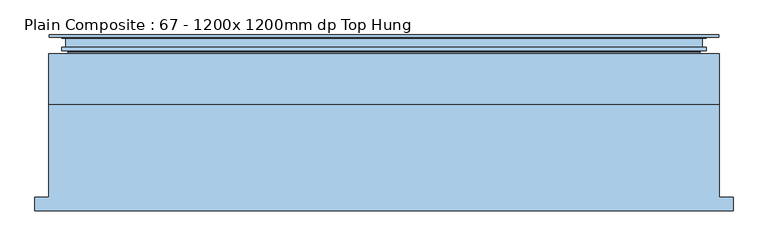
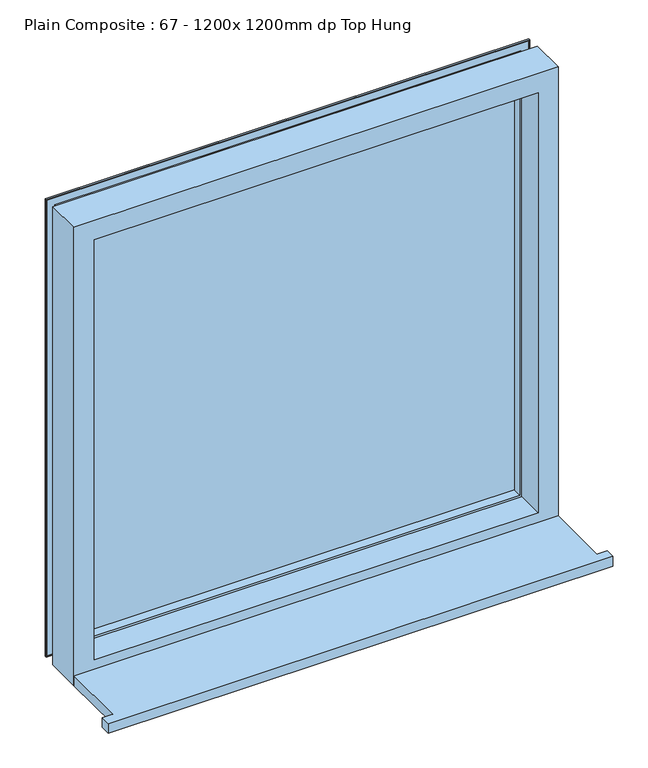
"""IFC4 building model written with IfcOpenShell, lengths in millimetres: window geometry, Plain Composite : 67 - 1200x 1200mm dp Top Hung."""

from ifc_helpers import new_model, si_unit, frame, origin, place, context, project, spatial, polyline, outline, extrude, faceted_brep, source, transform, mapped, element, save


def plain_composite_67_1200x_1200mm_dp_top_hung_3191f899(model_context):
    return source(origin(), model_context, "Body", "SolidModel", [
        extrude(outline(polyline([(-915.0, -161.5434322), (-915.0, -136.5434322), (-890.0, -136.5434322), (-890.0, 29.4565678), (310.0, 29.4565678), (310.0, -136.5434322), (335.0, -136.5434322), (335.0, -161.5434322), (-915.0, -161.5434322)])), frame((0.0, 0.0, 910.0), z_axis=(0.0, 0.0, 1.0), x_axis=(1.0, 0.0, 0.0)), (0.0, 0.0, 1.0), 25.0),
        extrude(outline(polyline([(267.0, 123.4565678), (-847.0, 123.4565678), (-847.0, 147.4565678), (267.0, 147.4565678), (267.0, 123.4565678)])), frame((0.0, 0.0, 953.0), z_axis=(0.0, 0.0, 1.0), x_axis=(1.0, 0.0, 0.0)), (0.0, 0.0, 1.0), 1114.0),
        faceted_brep([(-835.0, 147.4565678, 965.0), (-835.0, 153.4565678, 965.0), (-835.0, 153.4565678, 2055.0), (-835.0, 147.4565678, 2055.0), (-847.0, 123.4565678, 953.0), (-847.0, 147.4565678, 953.0), (-847.0, 147.4565678, 2067.0), (-847.0, 123.4565678, 2067.0), (-835.0, 100.4565678, 965.0), (-835.0, 123.4565678, 965.0), (-835.0, 123.4565678, 2055.0), (-835.0, 100.4565678, 2055.0), (-857.3761005, 103.766907, 942.6238995), (-857.3761005, 100.4565678, 942.6238995), (-857.3761005, 100.4565678, 2077.3761005), (-857.3761005, 103.766907, 2077.3761005), (-855.3055676, 104.9623297, 944.6944324), (-855.3055676, 104.9623297, 2075.3055676), (-855.3055676, 122.3525929, 944.6944324), (-855.3055676, 122.3525929, 2075.3055676), (-860.0, 127.0470253, 940.0), (-860.0, 127.0470253, 2080.0), (-865.0, 125.0470253, 935.0), (-865.0, 127.0470253, 935.0), (-865.0, 127.0470253, 2085.0), (-865.0, 125.0470253, 2085.0), (-867.0, 131.0470253, 933.0), (-867.0, 125.0470253, 933.0), (-867.0, 125.0470253, 2087.0), (-867.0, 131.0470253, 2087.0), (-865.0, 129.0470253, 935.0), (-865.0, 131.0470253, 935.0), (-865.0, 131.0470253, 2085.0), (-865.0, 129.0470253, 2085.0), (-860.0, 149.4565678, 940.0), (-860.0, 129.0470253, 940.0), (-860.0, 129.0470253, 2080.0), (-860.0, 149.4565678, 2080.0), (-865.0, 147.4565678, 935.0), (-865.0, 149.4565678, 935.0), (-865.0, 149.4565678, 2085.0), (-865.0, 147.4565678, 2085.0), (-867.0, 151.4565678, 933.0), (-867.0, 147.4565678, 933.0), (-867.0, 147.4565678, 2087.0), (-867.0, 151.4565678, 2087.0), (-887.0, 149.4565678, 913.0), (-887.0, 151.4565678, 913.0), (-887.0, 151.4565678, 2107.0), (-887.0, 149.4565678, 2107.0), (-889.0, 153.4565678, 911.0), (-889.0, 149.4565678, 911.0), (-889.0, 149.4565678, 2109.0), (-889.0, 153.4565678, 2109.0), (255.0, 153.4565678, 2055.0), (255.0, 147.4565678, 2055.0), (267.0, 147.4565678, 2067.0), (267.0, 123.4565678, 2067.0), (255.0, 123.4565678, 2055.0), (255.0, 100.4565678, 2055.0), (277.3761005, 100.4565678, 2077.3761005), (277.3761005, 103.766907, 2077.3761005), (275.3055676, 104.9623297, 2075.3055676), (275.3055676, 122.3525929, 2075.3055676), (280.0, 127.0470253, 2080.0), (285.0, 127.0470253, 2085.0), (285.0, 125.0470253, 2085.0), (287.0, 125.0470253, 2087.0), (287.0, 131.0470253, 2087.0), (285.0, 131.0470253, 2085.0), (285.0, 129.0470253, 2085.0), (280.0, 129.0470253, 2080.0), (280.0, 149.4565678, 2080.0), (285.0, 149.4565678, 2085.0), (285.0, 147.4565678, 2085.0), (287.0, 147.4565678, 2087.0), (287.0, 151.4565678, 2087.0), (307.0, 151.4565678, 2107.0), (307.0, 149.4565678, 2107.0), (309.0, 149.4565678, 2109.0), (309.0, 153.4565678, 2109.0), (255.0, 153.4565678, 965.0), (255.0, 147.4565678, 965.0), (267.0, 147.4565678, 953.0), (267.0, 123.4565678, 953.0), (255.0, 123.4565678, 965.0), (255.0, 100.4565678, 965.0), (277.3761005, 100.4565678, 942.6238995), (277.3761005, 103.766907, 942.6238995), (275.3055676, 104.9623297, 944.6944324), (275.3055676, 122.3525929, 944.6944324), (280.0, 127.0470253, 940.0), (285.0, 127.0470253, 935.0), (285.0, 125.0470253, 935.0), (287.0, 125.0470253, 933.0), (287.0, 131.0470253, 933.0), (285.0, 131.0470253, 935.0), (285.0, 129.0470253, 935.0), (280.0, 129.0470253, 940.0), (280.0, 149.4565678, 940.0), (285.0, 149.4565678, 935.0), (285.0, 147.4565678, 935.0), (287.0, 147.4565678, 933.0), (287.0, 151.4565678, 933.0), (307.0, 151.4565678, 913.0), (307.0, 149.4565678, 913.0), (309.0, 149.4565678, 911.0), (309.0, 153.4565678, 911.0)], [[[0, 1, 2, 3]], [[4, 5, 6, 7]], [[8, 9, 10, 11]], [[12, 13, 14, 15]], [[16, 12, 15, 17]], [[18, 16, 17, 19]], [[20, 18, 19, 21]], [[22, 23, 24, 25]], [[26, 27, 28, 29]], [[30, 31, 32, 33]], [[34, 35, 36, 37]], [[38, 39, 40, 41]], [[42, 43, 44, 45]], [[46, 47, 48, 49]], [[50, 51, 52, 53]], [[3, 2, 54, 55]], [[7, 6, 56, 57]], [[11, 10, 58, 59]], [[15, 14, 60, 61]], [[17, 15, 61, 62]], [[19, 17, 62, 63]], [[21, 19, 63, 64]], [[25, 24, 65, 66]], [[29, 28, 67, 68]], [[33, 32, 69, 70]], [[37, 36, 71, 72]], [[41, 40, 73, 74]], [[45, 44, 75, 76]], [[49, 48, 77, 78]], [[53, 52, 79, 80]], [[55, 54, 81, 82]], [[57, 56, 83, 84]], [[59, 58, 85, 86]], [[61, 60, 87, 88]], [[62, 61, 88, 89]], [[63, 62, 89, 90]], [[64, 63, 90, 91]], [[66, 65, 92, 93]], [[68, 67, 94, 95]], [[70, 69, 96, 97]], [[72, 71, 98, 99]], [[74, 73, 100, 101]], [[76, 75, 102, 103]], [[78, 77, 104, 105]], [[80, 79, 106, 107]], [[53, 80, 107, 50], [1, 81, 54, 2]], [[82, 81, 1, 0]], [[5, 83, 56, 6], [3, 55, 82, 0]], [[84, 83, 5, 4]], [[7, 57, 84, 4], [9, 85, 58, 10]], [[86, 85, 9, 8]], [[13, 87, 60, 14], [11, 59, 86, 8]], [[88, 87, 13, 12]], [[89, 88, 12, 16]], [[90, 89, 16, 18]], [[91, 90, 18, 20]], [[23, 92, 65, 24], [21, 64, 91, 20]], [[93, 92, 23, 22]], [[27, 94, 67, 28], [25, 66, 93, 22]], [[95, 94, 27, 26]], [[29, 68, 95, 26], [31, 96, 69, 32]], [[97, 96, 31, 30]], [[33, 70, 97, 30], [35, 98, 71, 36]], [[99, 98, 35, 34]], [[39, 100, 73, 40], [37, 72, 99, 34]], [[101, 100, 39, 38]], [[43, 102, 75, 44], [41, 74, 101, 38]], [[103, 102, 43, 42]], [[47, 104, 77, 48], [45, 76, 103, 42]], [[105, 104, 47, 46]], [[51, 106, 79, 52], [49, 78, 105, 46]], [[107, 106, 51, 50]]]),
        faceted_brep([(-890.0, 119.4565678, 910.0), (-890.0, 29.4565678, 910.0), (-890.0, 29.4565678, 2110.0), (-890.0, 119.4565678, 2110.0), (-865.0, 99.4565678, 935.0), (-867.8108167, 119.4565678, 932.1891833), (-867.8108167, 119.4565678, 2087.8108167), (-865.0, 99.4565678, 2085.0), (-840.0, 29.4565678, 960.0), (-840.0, 99.4565678, 960.0), (-840.0, 99.4565678, 2060.0), (-840.0, 29.4565678, 2060.0), (310.0, 29.4565678, 2110.0), (310.0, 119.4565678, 2110.0), (287.8108167, 119.4565678, 2087.8108167), (285.0, 99.4565678, 2085.0), (260.0, 99.4565678, 2060.0), (260.0, 29.4565678, 2060.0), (310.0, 29.4565678, 910.0), (310.0, 119.4565678, 910.0), (287.8108167, 119.4565678, 932.1891833), (285.0, 99.4565678, 935.0), (260.0, 99.4565678, 960.0), (260.0, 29.4565678, 960.0)], [[[0, 1, 2, 3]], [[4, 5, 6, 7]], [[8, 9, 10, 11]], [[3, 2, 12, 13]], [[7, 6, 14, 15]], [[11, 10, 16, 17]], [[13, 12, 18, 19]], [[15, 14, 20, 21]], [[17, 16, 22, 23]], [[1, 18, 12, 2], [11, 17, 23, 8]], [[19, 18, 1, 0]], [[3, 13, 19, 0], [5, 20, 14, 6]], [[21, 20, 5, 4]], [[7, 15, 21, 4], [9, 22, 16, 10]], [[23, 22, 9, 8]]]),
    ])


if __name__ == "__main__":
    model = new_model("IFC4")
    model_context = context("Model", 3, world=origin())
    ifc_project = project(units=[si_unit("LENGTHUNIT", "METRE", prefix="MILLI")], contexts=[model_context])
    site = spatial("IfcSite", under=ifc_project)
    building = spatial("IfcBuilding", under=site)
    placement = place(None, origin())
    plain_composite_67_1200x_1200mm_dp_top_hung_shape = plain_composite_67_1200x_1200mm_dp_top_hung_3191f899(model_context)
    element("IfcWindow", 1, ObjectType="Plain Composite : 67 - 1200x 1200mm dp Top Hung", at=placement, inside=building, context=model_context, shape_type="MappedRepresentation", body=[
        mapped(plain_composite_67_1200x_1200mm_dp_top_hung_shape, transform((0.0, 0.0, 0.0), x_axis=(1.0, 0.0, 0.0), y_axis=(0.0, 1.0, 0.0), z_axis=(0.0, 0.0, 1.0))),
    ])
    save(model, "model.ifc")
